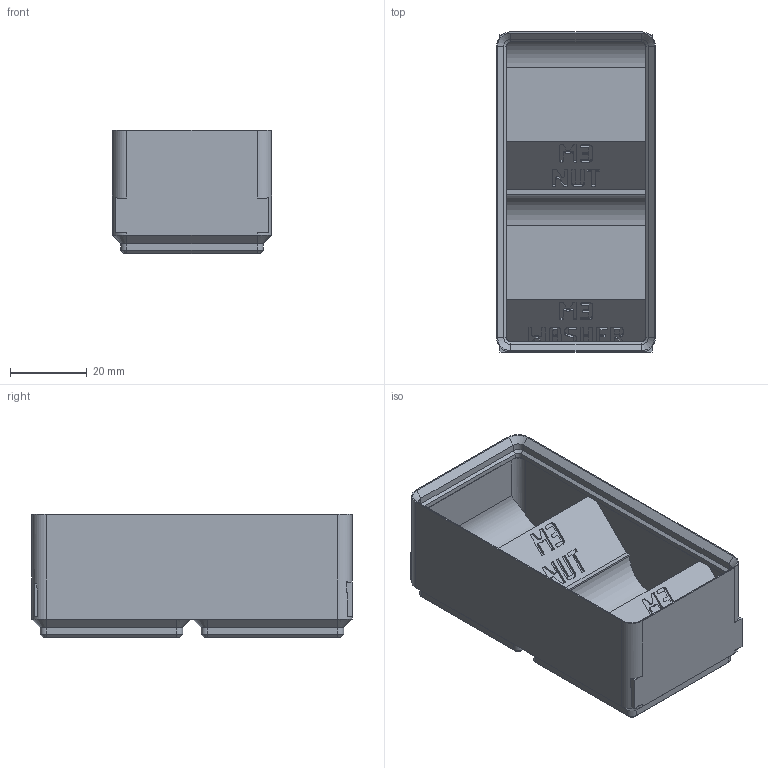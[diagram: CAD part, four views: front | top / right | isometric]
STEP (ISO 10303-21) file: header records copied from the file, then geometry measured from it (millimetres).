
FILE_DESCRIPTION(('Open CASCADE Model'),'2;1');
FILE_NAME('Open CASCADE Shape Model','2026-11-03T10:59:39',('Author'),( 'Open CASCADE'),'Open CASCADE STEP processor 8.0','build123d', 'Unknown');
FILE_SCHEMA(('AUTOMOTIVE_DESIGN { 1 0 10303 214 1 1 1 1 }'));
Products named in the file (1): COMPOUND
Bounding box: 41.5 x 83.5 x 32.1 mm (x, y, z)
Volume: 30739.3 mm3; surface area: 23920.8 mm2
Topology: 1 solids, 1 shells, 1463 faces, 4255 edges, 2814 vertices
Faces by surface type: plane 1405, cylinder 30, cone 28
Entity records: 102512 total; most frequent: CARTESIAN_POINT 17677, DIRECTION 15439, LINE 12299, VECTOR 12299, ORIENTED_EDGE 8510, PCURVE 8510, DEFINITIONAL_REPRESENTATION 8510, EDGE_CURVE 4255
